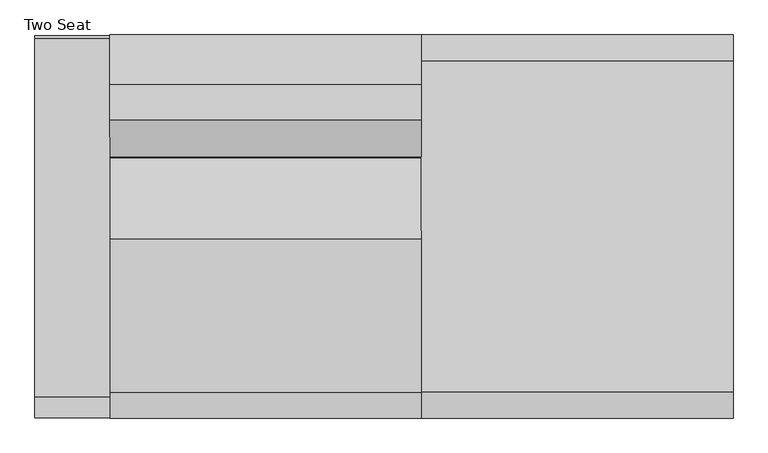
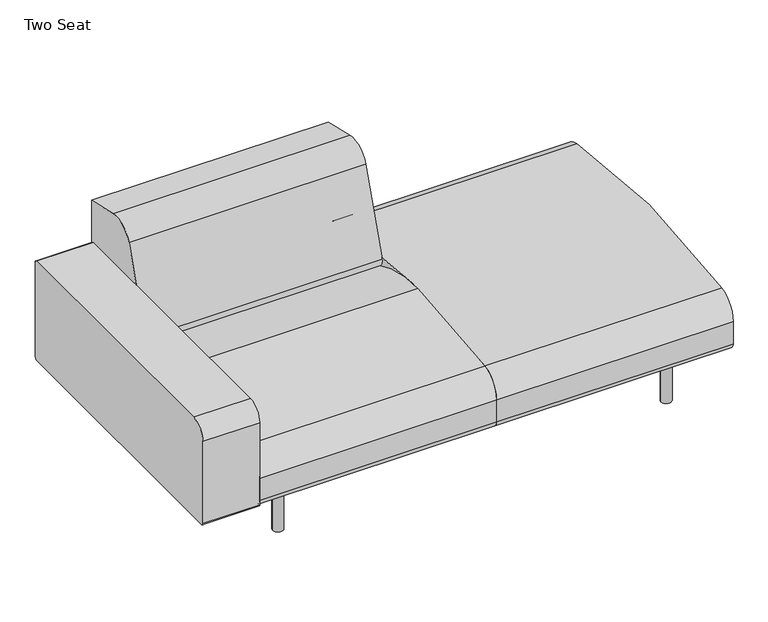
"""IFC4 building model written with IfcOpenShell, lengths in millimetres: furniture geometry, Coalesse_AM_Seating_LoungeChair_Sistema_LegBase_TwoSeat : Two Seat."""

from ifc_helpers import new_model, si_unit, point, frame, frame_2d, origin, origin_with_axes, place, context, project, spatial, polyline, circle_curve, trimmed, segment, composite_curve, outline, extrude, source, transform, mapped, element, save


def two_seat_e91e775b(model_context):
    return source(origin(), model_context, "Body", "SweptSolid", [
        extrude(outline(composite_curve([segment(trimmed(circle_curve(frame_2d((989.1765227, 335.9943389)), 6.096), [point((995.2725227, 335.9943389))], [point((983.0805227, 335.9943389))], False, "CARTESIAN"), True, "CONTINUOUS"), segment(trimmed(circle_curve(frame_2d((989.1765227, 335.9943389)), 6.096), [point((983.0805227, 335.9943389))], [point((995.2725227, 335.9943389))], False, "CARTESIAN"), True, "CONTINUOUS")], self_intersect=False)), origin_with_axes(), (0.0, 0.0, 1.0), 4.3662291),
        extrude(outline(composite_curve([segment(trimmed(circle_curve(frame_2d((989.1765227, -327.2630889)), 6.096), [point((995.2725227, -327.2630889))], [point((983.0805227, -327.2630889))], False, "CARTESIAN"), True, "CONTINUOUS"), segment(trimmed(circle_curve(frame_2d((989.1765227, -327.2630889)), 6.096), [point((983.0805227, -327.2630889))], [point((995.2725227, -327.2630889))], False, "CARTESIAN"), True, "CONTINUOUS")], self_intersect=False)), origin_with_axes(), (0.0, 0.0, 1.0), 4.3662291),
        extrude(outline(composite_curve([segment(polyline([(157.0399209, 1001.756375), (201.7356243, 1001.756375)]), True, "CONTINUOUS"), segment(trimmed(circle_curve(frame_2d((201.7356243, 998.708375)), 3.048), [point((201.7356243, 1001.756375))], [point((204.7836243, 998.708375))], False, "CARTESIAN"), True, "CONTINUOUS"), segment(polyline([(204.7836243, 998.708375), (204.7836243, 979.366199)]), True, "CONTINUOUS"), segment(trimmed(circle_curve(frame_2d((201.7356243, 979.366199)), 3.048), [point((204.7836243, 979.366199))], [point((201.7356243, 976.318199))], False, "CARTESIAN"), True, "CONTINUOUS"), segment(polyline([(201.7356243, 976.318199), (157.1249936, 976.318199)]), True, "CONTINUOUS"), segment(trimmed(circle_curve(frame_2d((157.1249936, 979.4512718)), 3.1330728), [point((157.1249936, 976.318199))], [point((153.9919209, 979.4512718))], False, "CARTESIAN"), True, "CONTINUOUS"), segment(polyline([(153.9919209, 979.4512718), (153.9919209, 998.708375)]), True, "CONTINUOUS"), segment(trimmed(circle_curve(frame_2d((157.0399209, 998.708375)), 3.048), [point((153.9919209, 998.708375))], [point((157.0399209, 1001.756375))], False, "CARTESIAN"), True, "CONTINUOUS")], self_intersect=False)), frame((0.0, 222.3519802, 0.0), z_axis=(0.0, 1.0, 0.0), x_axis=(0.0, 0.0, 1.0)), (0.0, 0.0, 1.0), 92.6273161),
        extrude(outline(composite_curve([segment(polyline([(157.0399209, 1001.756375), (201.7356243, 1001.756375)]), True, "CONTINUOUS"), segment(trimmed(circle_curve(frame_2d((201.7356243, 998.708375)), 3.048), [point((201.7356243, 1001.756375))], [point((204.7836243, 998.708375))], False, "CARTESIAN"), True, "CONTINUOUS"), segment(polyline([(204.7836243, 998.708375), (204.7836243, 979.366199)]), True, "CONTINUOUS"), segment(trimmed(circle_curve(frame_2d((201.7356243, 979.366199)), 3.048), [point((204.7836243, 979.366199))], [point((201.7356243, 976.318199))], False, "CARTESIAN"), True, "CONTINUOUS"), segment(polyline([(201.7356243, 976.318199), (157.1249936, 976.318199)]), True, "CONTINUOUS"), segment(trimmed(circle_curve(frame_2d((157.1249936, 979.4512718)), 3.1330728), [point((157.1249936, 976.318199))], [point((153.9919209, 979.4512718))], False, "CARTESIAN"), True, "CONTINUOUS"), segment(polyline([(153.9919209, 979.4512718), (153.9919209, 998.708375)]), True, "CONTINUOUS"), segment(trimmed(circle_curve(frame_2d((157.0399209, 998.708375)), 3.048), [point((153.9919209, 998.708375))], [point((157.0399209, 1001.756375))], False, "CARTESIAN"), True, "CONTINUOUS")], self_intersect=False)), frame((0.0, -314.9792963, 0.0), z_axis=(0.0, 1.0, 0.0), x_axis=(0.0, 0.0, 1.0)), (0.0, 0.0, 1.0), 92.6273161),
        extrude(outline(composite_curve([segment(trimmed(circle_curve(frame_2d((176.3356606, 966.5259944)), 3.048), [point((179.3836606, 966.5259944))], [point((176.3356606, 963.4779944))], False, "CARTESIAN"), True, "CONTINUOUS"), segment(polyline([(176.3356606, 963.4779944), (157.0399209, 963.4779944)]), True, "CONTINUOUS"), segment(trimmed(circle_curve(frame_2d((157.0399209, 966.5259944)), 3.048), [point((157.0399209, 963.4779944))], [point((153.9919209, 966.5259944))], False, "CARTESIAN"), True, "CONTINUOUS"), segment(polyline([(153.9919209, 966.5259944), (153.9919209, 1011.2135501)]), True, "CONTINUOUS"), segment(trimmed(circle_curve(frame_2d((157.056462, 1011.2135501)), 3.0645412), [point((153.9919209, 1011.2135501))], [point((157.056462, 1014.2780913))], False, "CARTESIAN"), True, "CONTINUOUS"), segment(polyline([(157.056462, 1014.2780913), (176.3356606, 1014.2780913)]), True, "CONTINUOUS"), segment(trimmed(circle_curve(frame_2d((176.3356606, 1011.2300913)), 3.048), [point((176.3356606, 1014.2780913))], [point((179.3836606, 1011.2300913))], False, "CARTESIAN"), True, "CONTINUOUS"), segment(polyline([(179.3836606, 1011.2300913), (179.3836606, 966.5259944)]), True, "CONTINUOUS")], self_intersect=False)), frame((0.0, -222.3519802, 0.0), z_axis=(0.0, 1.0, 0.0), x_axis=(0.0, 0.0, 1.0)), (0.0, 0.0, 1.0), 444.7039604),
        extrude(outline(composite_curve([segment(trimmed(circle_curve(frame_2d((989.1765227, 332.3095741)), 16.51), [point((1005.6865227, 332.3095741))], [point((972.6665227, 332.3095741))], False, "CARTESIAN"), True, "CONTINUOUS"), segment(trimmed(circle_curve(frame_2d((989.1765227, 332.3095741)), 16.51), [point((972.6665227, 332.3095741))], [point((1005.6865227, 332.3095741))], False, "CARTESIAN"), True, "CONTINUOUS")], self_intersect=False)), frame((0.0, 0.0, 4.3662291), z_axis=(0.0, 0.0, 1.0), x_axis=(1.0, 0.0, 0.0)), (0.0, 0.0, 1.0), 200.1037709),
        extrude(outline(composite_curve([segment(trimmed(circle_curve(frame_2d((988.7796477, -327.5470741)), 16.51), [point((1005.2896477, -327.5470741))], [point((972.2696477, -327.5470741))], False, "CARTESIAN"), True, "CONTINUOUS"), segment(trimmed(circle_curve(frame_2d((988.7796477, -327.5470741)), 16.51), [point((972.2696477, -327.5470741))], [point((1005.2896477, -327.5470741))], False, "CARTESIAN"), True, "CONTINUOUS")], self_intersect=False)), frame((0.0, 0.0, 4.3662291), z_axis=(0.0, 0.0, 1.0), x_axis=(1.0, 0.0, 0.0)), (0.0, 0.0, 1.0), 200.1037709),
        extrude(outline(composite_curve([segment(polyline([(-461.2704381, 212.4103341), (-461.2704381, 487.0244726)]), True, "CONTINUOUS"), segment(trimmed(circle_curve(frame_2d((-410.4704381, 487.0244726)), 50.8), [point((-461.2704381, 487.0244726))], [point((-410.4704381, 537.8244726))], False, "CARTESIAN"), True, "CONTINUOUS"), segment(polyline([(-410.4704381, 537.8244726), (450.1139321, 537.8244726)]), True, "CONTINUOUS"), segment(trimmed(circle_curve(frame_2d((450.1139321, 530.2044726)), 7.62), [point((450.1139321, 537.8244726))], [point((457.7339321, 530.2044726))], False, "CARTESIAN"), True, "CONTINUOUS"), segment(polyline([(457.7339321, 530.2044726), (457.7339321, 217.4903341)]), True, "CONTINUOUS"), segment(trimmed(circle_curve(frame_2d((445.0339321, 217.4903341)), 12.7), [point((457.7339321, 217.4903341))], [point((445.0339321, 204.7903341))], False, "CARTESIAN"), True, "CONTINUOUS"), segment(polyline([(445.0339321, 204.7903341), (-453.6504381, 204.7903341)]), True, "CONTINUOUS"), segment(trimmed(circle_curve(frame_2d((-453.6504381, 212.4103341)), 7.62), [point((-453.6504381, 204.7903341))], [point((-461.2704381, 212.4103341))], False, "CARTESIAN"), True, "CONTINUOUS")], self_intersect=False)), frame((-554.3698424, 0.0, 0.0), z_axis=(1.0, 0.0, 0.0), x_axis=(0.0, 1.0, 0.0)), (0.0, 0.0, 1.0), 179.5663651),
        extrude(outline(composite_curve([segment(polyline([(459.4795619, 673.6041325), (459.4795619, 228.1929806)]), True, "CONTINUOUS"), segment(trimmed(circle_curve(frame_2d((191.495971, 228.1929806)), 267.983591), [point((459.4795619, 228.1929806))], [point((458.9860775, 211.937276))], False, "CARTESIAN"), True, "CONTINUOUS"), segment(polyline([(458.9860775, 211.937276), (177.4990556, 364.1028799)]), True, "CONTINUOUS"), segment(trimmed(circle_curve(frame_2d((189.5778307, 386.4470781)), 25.4), [point((177.4990556, 364.1028799))], [point((164.9600055, 392.7018911))], False, "CARTESIAN"), True, "CONTINUOUS"), segment(trimmed(circle_curve(frame_2d((1918.112812, -52.7331923)), 1808.8552115), [point((164.9600055, 392.7018911))], [point((254.1018253, 656.5090883))], False, "CARTESIAN"), True, "CONTINUOUS"), segment(trimmed(circle_curve(frame_2d((324.2001043, 626.6314831)), 76.2), [point((254.1018253, 656.5090883))], [point((341.3413746, 700.8784821))], False, "CARTESIAN"), True, "CONTINUOUS"), segment(polyline([(341.3413746, 700.8784821), (459.4795619, 673.6041325)]), True, "CONTINUOUS")], self_intersect=False)), frame((-374.8034773, 0.0, 0.0), z_axis=(1.0, 0.0, 0.0), x_axis=(0.0, 1.0, 0.0)), (0.0, 0.0, 1.0), 749.3),
        extrude(outline(composite_curve([segment(trimmed(circle_curve(frame_2d((-438.9184381, 226.822)), 22.352), [point((-438.9184381, 204.47))], [point((-461.2704381, 226.822))], False, "CARTESIAN"), True, "CONTINUOUS"), segment(polyline([(-461.2704381, 226.822), (-461.2704381, 301.4421993)]), True, "CONTINUOUS"), segment(trimmed(circle_curve(frame_2d((-385.0704381, 301.4421993)), 76.2), [point((-461.2704381, 301.4421993))], [point((-398.9277015, 376.3716077))], False, "CARTESIAN"), True, "CONTINUOUS"), segment(trimmed(circle_curve(frame_2d((2.2103559, -1792.6740646)), 2205.8265729), [point((-398.9277015, 376.3716077))], [point((-31.1968175, 412.8995185))], False, "CARTESIAN"), True, "CONTINUOUS"), segment(trimmed(circle_curve(frame_2d((-24.5128424, -28.3829182)), 441.333054), [point((-31.1968175, 412.8995185))], [point((184.5757008, 360.2774035))], False, "CARTESIAN"), True, "CONTINUOUS"), segment(polyline([(184.5757008, 360.2774035), (458.9860775, 211.937276)]), True, "CONTINUOUS"), segment(trimmed(circle_curve(frame_2d((442.3266309, 226.7871991)), 22.3171991), [point((458.9860775, 211.937276))], [point((442.3266309, 204.47))], False, "CARTESIAN"), True, "CONTINUOUS"), segment(polyline([(442.3266309, 204.47), (-438.9184381, 204.47)]), True, "CONTINUOUS")], self_intersect=False)), frame((-374.8034773, 0.0, 0.0), z_axis=(1.0, 0.0, 0.0), x_axis=(0.0, 1.0, 0.0)), (0.0, 0.0, 1.0), 749.3),
        extrude(outline(composite_curve([segment(trimmed(circle_curve(frame_2d((-438.9184381, 226.822)), 22.352), [point((-438.9184381, 204.47))], [point((-461.2704381, 226.822))], False, "CARTESIAN"), True, "CONTINUOUS"), segment(polyline([(-461.2704381, 226.822), (-461.2704381, 301.4421993)]), True, "CONTINUOUS"), segment(trimmed(circle_curve(frame_2d((-385.0704381, 301.4421993)), 76.2), [point((-461.2704381, 301.4421993))], [point((-398.9279534, 376.3715612))], False, "CARTESIAN"), True, "CONTINUOUS"), segment(trimmed(circle_curve(frame_2d((-0.3717831, -1778.6727457)), 2191.5891461), [point((-398.9279534, 376.3715612))], [point((397.0993513, 376.5719464))], False, "CARTESIAN"), True, "CONTINUOUS"), segment(trimmed(circle_curve(frame_2d((383.2795619, 301.6356173)), 76.2), [point((397.0993513, 376.5719464))], [point((459.4795619, 301.6356173))], False, "CARTESIAN"), True, "CONTINUOUS"), segment(polyline([(459.4795619, 301.6356173), (459.4795619, 226.7871991)]), True, "CONTINUOUS"), segment(trimmed(circle_curve(frame_2d((437.1623628, 226.7871991)), 22.3171991), [point((459.4795619, 226.7871991))], [point((437.1623628, 204.47))], False, "CARTESIAN"), True, "CONTINUOUS"), segment(polyline([(437.1623628, 204.47), (-438.9184381, 204.47)]), True, "CONTINUOUS")], self_intersect=False)), frame((374.4965227, 0.0, 0.0), z_axis=(1.0, 0.0, 0.0), x_axis=(0.0, 1.0, 0.0)), (0.0, 0.0, 1.0), 749.3),
        extrude(outline(composite_curve([segment(trimmed(circle_curve(frame_2d((-240.1834773, 335.9943389)), 6.096), [point((-246.2794773, 335.9943389))], [point((-234.0874773, 335.9943389))], False, "CARTESIAN"), True, "CONTINUOUS"), segment(trimmed(circle_curve(frame_2d((-240.1834773, 335.9943389)), 6.096), [point((-234.0874773, 335.9943389))], [point((-246.2794773, 335.9943389))], False, "CARTESIAN"), True, "CONTINUOUS")], self_intersect=False)), origin_with_axes(), (0.0, 0.0, 1.0), 4.3662291),
        extrude(outline(composite_curve([segment(trimmed(circle_curve(frame_2d((-240.1834773, -327.2630889)), 6.096), [point((-246.2794773, -327.2630889))], [point((-234.0874773, -327.2630889))], False, "CARTESIAN"), True, "CONTINUOUS"), segment(trimmed(circle_curve(frame_2d((-240.1834773, -327.2630889)), 6.096), [point((-234.0874773, -327.2630889))], [point((-246.2794773, -327.2630889))], False, "CARTESIAN"), True, "CONTINUOUS")], self_intersect=False)), origin_with_axes(), (0.0, 0.0, 1.0), 4.3662291),
        extrude(outline(composite_curve([segment(trimmed(circle_curve(frame_2d((157.0399209, -249.7153296)), 3.048), [point((157.0399209, -252.7633296))], [point((153.9919209, -249.7153296))], False, "CARTESIAN"), True, "CONTINUOUS"), segment(polyline([(153.9919209, -249.7153296), (153.9919209, -230.4582264)]), True, "CONTINUOUS"), segment(trimmed(circle_curve(frame_2d((157.1249936, -230.4582264)), 3.1330728), [point((153.9919209, -230.4582264))], [point((157.1249936, -227.3251537))], False, "CARTESIAN"), True, "CONTINUOUS"), segment(polyline([(157.1249936, -227.3251537), (201.7356243, -227.3251537)]), True, "CONTINUOUS"), segment(trimmed(circle_curve(frame_2d((201.7356243, -230.3731537)), 3.048), [point((201.7356243, -227.3251537))], [point((204.7836243, -230.3731537))], False, "CARTESIAN"), True, "CONTINUOUS"), segment(polyline([(204.7836243, -230.3731537), (204.7836243, -249.7153296)]), True, "CONTINUOUS"), segment(trimmed(circle_curve(frame_2d((201.7356243, -249.7153296)), 3.048), [point((204.7836243, -249.7153296))], [point((201.7356243, -252.7633296))], False, "CARTESIAN"), True, "CONTINUOUS"), segment(polyline([(201.7356243, -252.7633296), (157.0399209, -252.7633296)]), True, "CONTINUOUS")], self_intersect=False)), frame((0.0, 222.3519802, 0.0), z_axis=(0.0, 1.0, 0.0), x_axis=(0.0, 0.0, 1.0)), (0.0, 0.0, 1.0), 92.6273161),
        extrude(outline(composite_curve([segment(trimmed(circle_curve(frame_2d((157.0399209, -249.7153296)), 3.048), [point((157.0399209, -252.7633296))], [point((153.9919209, -249.7153296))], False, "CARTESIAN"), True, "CONTINUOUS"), segment(polyline([(153.9919209, -249.7153296), (153.9919209, -230.4582264)]), True, "CONTINUOUS"), segment(trimmed(circle_curve(frame_2d((157.1249936, -230.4582264)), 3.1330728), [point((153.9919209, -230.4582264))], [point((157.1249936, -227.3251537))], False, "CARTESIAN"), True, "CONTINUOUS"), segment(polyline([(157.1249936, -227.3251537), (201.7356243, -227.3251537)]), True, "CONTINUOUS"), segment(trimmed(circle_curve(frame_2d((201.7356243, -230.3731537)), 3.048), [point((201.7356243, -227.3251537))], [point((204.7836243, -230.3731537))], False, "CARTESIAN"), True, "CONTINUOUS"), segment(polyline([(204.7836243, -230.3731537), (204.7836243, -249.7153296)]), True, "CONTINUOUS"), segment(trimmed(circle_curve(frame_2d((201.7356243, -249.7153296)), 3.048), [point((204.7836243, -249.7153296))], [point((201.7356243, -252.7633296))], False, "CARTESIAN"), True, "CONTINUOUS"), segment(polyline([(201.7356243, -252.7633296), (157.0399209, -252.7633296)]), True, "CONTINUOUS")], self_intersect=False)), frame((0.0, -314.9792963, 0.0), z_axis=(0.0, 1.0, 0.0), x_axis=(0.0, 0.0, 1.0)), (0.0, 0.0, 1.0), 92.6273161),
        extrude(outline(composite_curve([segment(polyline([(179.3836606, -217.532949), (179.3836606, -262.2370459)]), True, "CONTINUOUS"), segment(trimmed(circle_curve(frame_2d((176.3356606, -262.2370459)), 3.048), [point((179.3836606, -262.2370459))], [point((176.3356606, -265.2850459))], False, "CARTESIAN"), True, "CONTINUOUS"), segment(polyline([(176.3356606, -265.2850459), (157.056462, -265.2850459)]), True, "CONTINUOUS"), segment(trimmed(circle_curve(frame_2d((157.056462, -262.2205047)), 3.0645412), [point((157.056462, -265.2850459))], [point((153.9919209, -262.2205047))], False, "CARTESIAN"), True, "CONTINUOUS"), segment(polyline([(153.9919209, -262.2205047), (153.9919209, -217.532949)]), True, "CONTINUOUS"), segment(trimmed(circle_curve(frame_2d((157.0399209, -217.532949)), 3.048), [point((153.9919209, -217.532949))], [point((157.0399209, -214.484949))], False, "CARTESIAN"), True, "CONTINUOUS"), segment(polyline([(157.0399209, -214.484949), (176.3356606, -214.484949)]), True, "CONTINUOUS"), segment(trimmed(circle_curve(frame_2d((176.3356606, -217.532949)), 3.048), [point((176.3356606, -214.484949))], [point((179.3836606, -217.532949))], False, "CARTESIAN"), True, "CONTINUOUS")], self_intersect=False)), frame((0.0, -222.3519802, 0.0), z_axis=(0.0, 1.0, 0.0), x_axis=(0.0, 0.0, 1.0)), (0.0, 0.0, 1.0), 444.7039604),
        extrude(outline(composite_curve([segment(trimmed(circle_curve(frame_2d((-240.1834773, 332.3095741)), 16.51), [point((-256.6934773, 332.3095741))], [point((-223.6734773, 332.3095741))], False, "CARTESIAN"), True, "CONTINUOUS"), segment(trimmed(circle_curve(frame_2d((-240.1834773, 332.3095741)), 16.51), [point((-223.6734773, 332.3095741))], [point((-256.6934773, 332.3095741))], False, "CARTESIAN"), True, "CONTINUOUS")], self_intersect=False)), frame((0.0, 0.0, 4.3662291), z_axis=(0.0, 0.0, 1.0), x_axis=(1.0, 0.0, 0.0)), (0.0, 0.0, 1.0), 200.1037709),
        extrude(outline(composite_curve([segment(trimmed(circle_curve(frame_2d((-239.7866023, -327.5470741)), 16.51), [point((-256.2966023, -327.5470741))], [point((-223.2766023, -327.5470741))], False, "CARTESIAN"), True, "CONTINUOUS"), segment(trimmed(circle_curve(frame_2d((-239.7866023, -327.5470741)), 16.51), [point((-223.2766023, -327.5470741))], [point((-256.2966023, -327.5470741))], False, "CARTESIAN"), True, "CONTINUOUS")], self_intersect=False)), frame((0.0, 0.0, 4.3662291), z_axis=(0.0, 0.0, 1.0), x_axis=(1.0, 0.0, 0.0)), (0.0, 0.0, 1.0), 200.1037709),
    ])


if __name__ == "__main__":
    model = new_model("IFC4")
    model_context = context("Model", 3, world=origin())
    ifc_project = project(units=[si_unit("LENGTHUNIT", "METRE", prefix="MILLI")], contexts=[model_context])
    site = spatial("IfcSite", under=ifc_project)
    building = spatial("IfcBuilding", under=site)
    placement = place(None, origin())
    two_seat_shape = two_seat_e91e775b(model_context)
    element("IfcFurniture", 1, ObjectType="Coalesse_AM_Seating_LoungeChair_Sistema_LegBase_TwoSeat : Two Seat", at=placement, inside=building, context=model_context, shape_type="MappedRepresentation", body=[
        mapped(two_seat_shape, transform((0.0, 0.0, 0.0), x_axis=(1.0, 0.0, 0.0), y_axis=(0.0, 1.0, 0.0), z_axis=(0.0, 0.0, 1.0))),
    ])
    save(model, "model.ifc")
